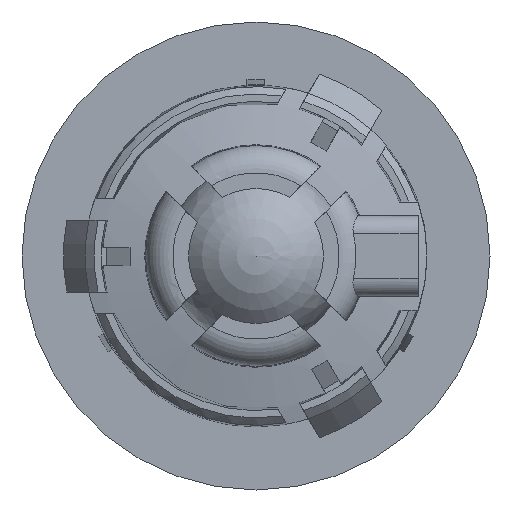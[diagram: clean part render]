
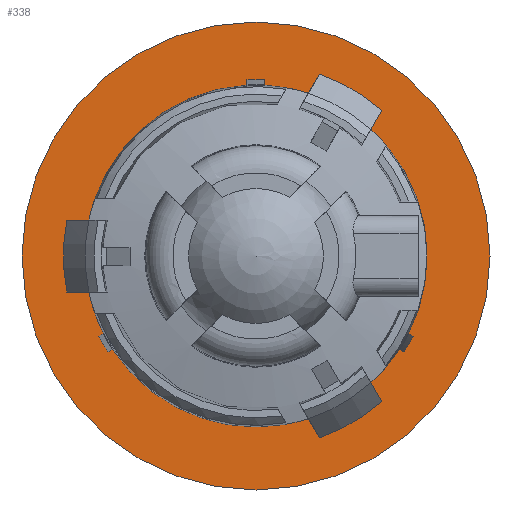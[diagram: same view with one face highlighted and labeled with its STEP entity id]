
A CAD part, front view. The second image highlights one B-rep face of the part: STEP entity #338.
In plain terms, the highlighted planar face has unit normal (0, -1, 0).
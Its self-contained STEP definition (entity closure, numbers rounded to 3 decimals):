
#107=FACE_BOUND('',#803,.T.);
#108=FACE_BOUND('',#804,.T.);
#338=ADVANCED_FACE('',(#107,#108),#521,.T.);
#521=PLANE('',#3680);
#803=EDGE_LOOP('',(#1709));
#804=EDGE_LOOP('',(#1710,#1711,#1712,#1713,#1714,#1715,#1716,#1717,#1718,
#1719,#1720,#1721));
#1079=LINE('',#5712,#1280);
#1080=LINE('',#5716,#1281);
#1081=LINE('',#5720,#1282);
#1082=LINE('',#5721,#1283);
#1083=LINE('',#5725,#1284);
#1084=LINE('',#5726,#1285);
#1280=VECTOR('',#4320,1.);
#1281=VECTOR('',#4325,1.);
#1282=VECTOR('',#4328,1.);
#1283=VECTOR('',#4329,1.);
#1284=VECTOR('',#4332,1.);
#1285=VECTOR('',#4333,1.);
#1709=ORIENTED_EDGE('',*,*,#3023,.F.);
#1710=ORIENTED_EDGE('',*,*,#3024,.F.);
#1711=ORIENTED_EDGE('',*,*,#2999,.F.);
#1712=ORIENTED_EDGE('',*,*,#3022,.F.);
#1713=ORIENTED_EDGE('',*,*,#3025,.F.);
#1714=ORIENTED_EDGE('',*,*,#3026,.F.);
#1715=ORIENTED_EDGE('',*,*,#3003,.F.);
#1716=ORIENTED_EDGE('',*,*,#3027,.F.);
#1717=ORIENTED_EDGE('',*,*,#3028,.F.);
#1718=ORIENTED_EDGE('',*,*,#3029,.F.);
#1719=ORIENTED_EDGE('',*,*,#3001,.T.);
#1720=ORIENTED_EDGE('',*,*,#3030,.F.);
#1721=ORIENTED_EDGE('',*,*,#3031,.F.);
#2612=VERTEX_POINT('',#5652);
#2613=VERTEX_POINT('',#5653);
#2614=VERTEX_POINT('',#5655);
#2615=VERTEX_POINT('',#5657);
#2616=VERTEX_POINT('',#5659);
#2617=VERTEX_POINT('',#5661);
#2623=VERTEX_POINT('',#5711);
#2624=VERTEX_POINT('',#5715);
#2625=VERTEX_POINT('',#5717);
#2626=VERTEX_POINT('',#5719);
#2627=VERTEX_POINT('',#5722);
#2628=VERTEX_POINT('',#5724);
#2629=VERTEX_POINT('',#5727);
#2999=EDGE_CURVE('',#2612,#2613,#3398,.T.);
#3001=EDGE_CURVE('',#2615,#2614,#3400,.T.);
#3003=EDGE_CURVE('',#2616,#2617,#3402,.T.);
#3022=EDGE_CURVE('',#2623,#2612,#1079,.T.);
#3023=EDGE_CURVE('',#2624,#2624,#3408,.T.);
#3024=EDGE_CURVE('',#2613,#2625,#1080,.T.);
#3025=EDGE_CURVE('',#2626,#2623,#3409,.T.);
#3026=EDGE_CURVE('',#2617,#2626,#1081,.T.);
#3027=EDGE_CURVE('',#2627,#2616,#1082,.T.);
#3028=EDGE_CURVE('',#2628,#2627,#3410,.T.);
#3029=EDGE_CURVE('',#2615,#2628,#1083,.T.);
#3030=EDGE_CURVE('',#2629,#2614,#1084,.T.);
#3031=EDGE_CURVE('',#2625,#2629,#3411,.T.);
#3398=CIRCLE('',#3663,9.5);
#3400=CIRCLE('',#3665,9.5);
#3402=CIRCLE('',#3667,9.5);
#3408=CIRCLE('',#3676,13.);
#3409=CIRCLE('',#3677,9.8);
#3410=CIRCLE('',#3678,9.8);
#3411=CIRCLE('',#3679,9.8);
#3663=AXIS2_PLACEMENT_3D('',#5651,#4291,#4292);
#3665=AXIS2_PLACEMENT_3D('',#5656,#4295,#4296);
#3667=AXIS2_PLACEMENT_3D('',#5660,#4299,#4300);
#3676=AXIS2_PLACEMENT_3D('',#5714,#4323,#4324);
#3677=AXIS2_PLACEMENT_3D('',#5718,#4326,#4327);
#3678=AXIS2_PLACEMENT_3D('',#5723,#4330,#4331);
#3679=AXIS2_PLACEMENT_3D('',#5728,#4334,#4335);
#3680=AXIS2_PLACEMENT_3D('',#5729,#4336,#4337);
#4291=DIRECTION('',(0.,-1.,0.));
#4292=DIRECTION('',(-0.053,0.,0.999));
#4295=DIRECTION('',(0.,1.,0.));
#4296=DIRECTION('',(0.839,0.,-0.545));
#4299=DIRECTION('',(0.,-1.,0.));
#4300=DIRECTION('',(1.,0.,0.));
#4320=DIRECTION('',(0.,0.,-1.));
#4323=DIRECTION('',(0.,1.,0.));
#4324=DIRECTION('',(1.,0.,0.));
#4325=DIRECTION('',(-0.866,0.,-0.5));
#4326=DIRECTION('',(0.,-1.,0.));
#4327=DIRECTION('',(0.051,0.,0.999));
#4328=DIRECTION('',(0.,0.,1.));
#4329=DIRECTION('',(-0.866,0.,0.5));
#4330=DIRECTION('',(0.,-1.,0.));
#4331=DIRECTION('',(0.839,0.,-0.544));
#4332=DIRECTION('',(0.866,0.,-0.5));
#4333=DIRECTION('',(0.866,0.,0.5));
#4334=DIRECTION('',(0.,-1.,0.));
#4335=DIRECTION('',(-0.89,0.,-0.455));
#4336=DIRECTION('',(0.,-1.,0.));
#4337=DIRECTION('',(1.,0.,0.));
#5651=CARTESIAN_POINT('',(0.,-1.8,0.));
#5652=CARTESIAN_POINT('',(-0.5,-1.8,9.487));
#5653=CARTESIAN_POINT('',(-8.466,-1.8,-4.31));
#5655=CARTESIAN_POINT('',(-7.966,-1.8,-5.176));
#5656=CARTESIAN_POINT('',(0.,-1.8,0.));
#5657=CARTESIAN_POINT('',(7.966,-1.8,-5.176));
#5659=CARTESIAN_POINT('',(8.466,-1.8,-4.31));
#5660=CARTESIAN_POINT('',(0.,-1.8,0.));
#5661=CARTESIAN_POINT('',(0.5,-1.8,9.487));
#5711=CARTESIAN_POINT('',(-0.5,-1.8,9.787));
#5712=CARTESIAN_POINT('',(-0.5,-1.8,9.787));
#5714=CARTESIAN_POINT('',(0.,-1.8,0.));
#5715=CARTESIAN_POINT('',(13.,-1.8,0.));
#5716=CARTESIAN_POINT('',(-8.466,-1.8,-4.31));
#5717=CARTESIAN_POINT('',(-8.726,-1.8,-4.461));
#5718=CARTESIAN_POINT('',(0.,-1.8,0.));
#5719=CARTESIAN_POINT('',(0.5,-1.8,9.787));
#5720=CARTESIAN_POINT('',(0.5,-1.8,9.487));
#5721=CARTESIAN_POINT('',(8.726,-1.8,-4.461));
#5722=CARTESIAN_POINT('',(8.726,-1.8,-4.461));
#5723=CARTESIAN_POINT('',(0.,-1.8,0.));
#5724=CARTESIAN_POINT('',(8.226,-1.8,-5.327));
#5725=CARTESIAN_POINT('',(7.966,-1.8,-5.176));
#5726=CARTESIAN_POINT('',(-8.226,-1.8,-5.327));
#5727=CARTESIAN_POINT('',(-8.226,-1.8,-5.327));
#5728=CARTESIAN_POINT('',(0.,-1.8,0.));
#5729=CARTESIAN_POINT('',(0.,-1.8,0.));
